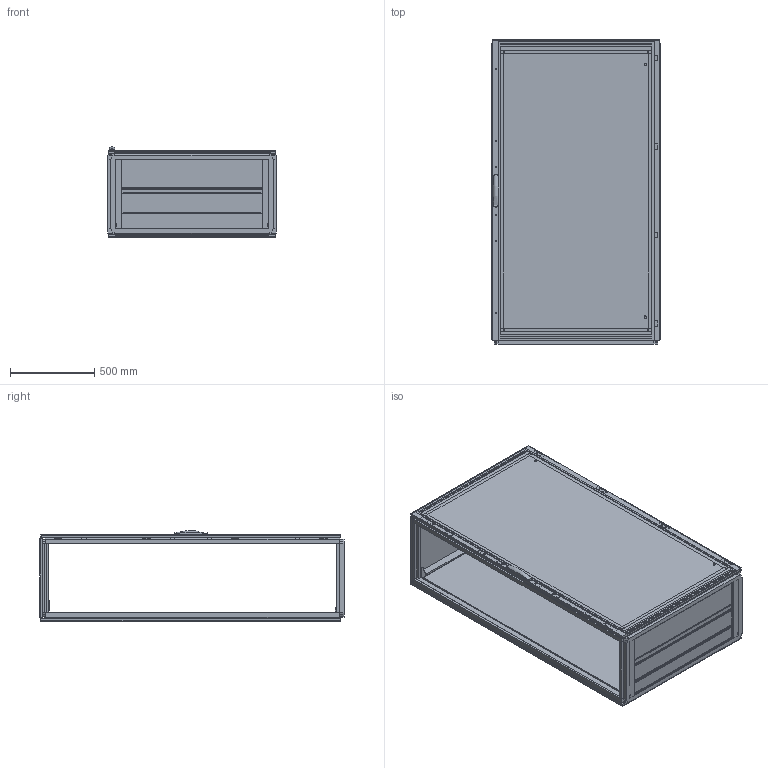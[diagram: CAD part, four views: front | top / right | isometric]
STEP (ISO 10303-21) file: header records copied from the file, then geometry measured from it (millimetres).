
FILE_DESCRIPTION(/* description */ ('STEP AP203'),/* implementation_level */ '2;1');
FILE_NAME(/* name */ 'MCS18105R5(0R)',/* time_stamp */ '2024-03-01T09:53:33+01:00',/* author */ ('License CC BY-ND 4.0'),/* organization */ ('CADENAS'),/* preprocessor_version */ 'ST-DEVELOPER v19.3',/* originating_system */ 'PARTsolutions',/* authorisation */ ' ');
FILE_SCHEMA (('CONFIG_CONTROL_DESIGN'));
Length unit declared in the file: millimetre
Products named in the file (20): MCS18105R5(0R); MCS18105R5_Frame; CRPK10(0)_Rear Panel Mounting Kit; CRP1810R5(0)_Rear Panel; CRPK10(0)_Rear Panel Bracket; DNMK01(0)_Rod catches; DNMK01(0)_Hinge; DN1810R5(0)_Plain door; LSSDXXXX(0)_Lock; LSSD1800(0)_Espagnolette Top; LSSD1800(0)_Espagnolette Bottom; CCR105R5(0)_Roof plate; MPA06(0)_Mounting Plate Brackets 1; MP1810(0)_P1; MPA06(0)_Mounting Plate Brackets 2; MPA06(0)_Mounting Plate Brackets 3; MPA06(0)_Mounting Plate Brackets 4; CBPW1000D200(0)_Bottom Plate 3; CBP100(0)_Bottom Plate 1; CBP100(0)_Bottom Plate 2
Assembly tree (33 placements, depth 2):
  MCS18105R5(0R)
    MCS18105R5_Frame
    CRPK10(0)_Rear Panel Mounting Kit  x8
    CRP1810R5(0)_Rear Panel
    CRPK10(0)_Rear Panel Bracket  x2
    DNMK01(0)_Rod catches  x4
    DNMK01(0)_Hinge  x4
    DN1810R5(0)_Plain door
    LSSDXXXX(0)_Lock
    LSSD1800(0)_Espagnolette Top
    LSSD1800(0)_Espagnolette Bottom
    CCR105R5(0)_Roof plate
    MPA06(0)_Mounting Plate Brackets 1
    MP1810(0)_P1
    MPA06(0)_Mounting Plate Brackets 2
    MPA06(0)_Mounting Plate Brackets 3
    MPA06(0)_Mounting Plate Brackets 4
    CBPW1000D200(0)_Bottom Plate 3
    CBP100(0)_Bottom Plate 1
    CBP100(0)_Bottom Plate 2
Bounding box: 999 x 1806 x 534.9 mm (x, y, z)
Volume: 31877931.7 mm3; surface area: 15816743.5 mm2
Topology: 33 solids, 33 shells, 1499 faces, 3977 edges, 2623 vertices
Faces by surface type: plane 1308, cylinder 128, cone 62, torus 1
Full cylindrical faces by diameter (mm): 2.55 x2, 5 x22, 5.2 x2, 6 x6, 7 x6, 7.4 x4, 8 x20, 9 x2, 10 x12, 13 x2, 14 x4
Entity records: 36012 total; most frequent: CARTESIAN_POINT 6261, ORIENTED_EDGE 5898, DIRECTION 5566, EDGE_CURVE 2949, LINE 2650, VECTOR 2650, VERTEX_POINT 2003, AXIS2_PLACEMENT_3D 1458
